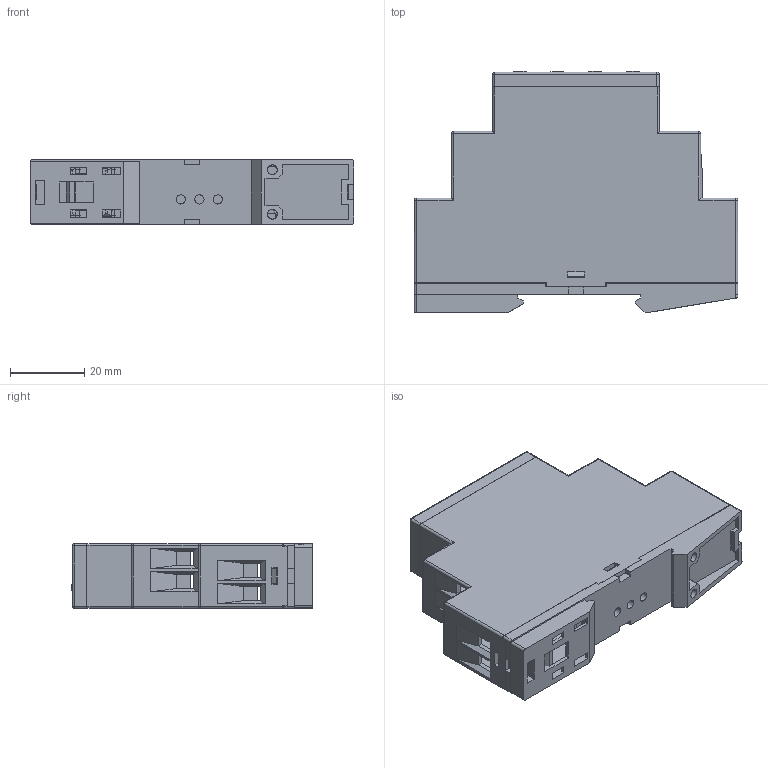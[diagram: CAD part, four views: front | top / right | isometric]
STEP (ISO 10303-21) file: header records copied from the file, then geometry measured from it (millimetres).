
FILE_DESCRIPTION(/* description */ (''),/* implementation_level */ '2;1');
FILE_NAME(/* name */ '09980718.stp',/* time_stamp */ '2025-05-23T12:10:23+02:00',/* author */ (''),/* organization */ (''),/* preprocessor_version */ 'ST-DEVELOPER v18.1',/* originating_system */ 'SIEMENS PLM Software NX 1961',/* authorisation */ '');
FILE_SCHEMA (('AUTOMOTIVE_DESIGN { 1 0 10303 214 3 1 1 1 }'));
Length unit declared in the file: millimetre
Products named in the file (1): jann44E8F4C1pcky
Bounding box: 87.4 x 65.3 x 17.5 mm (x, y, z)
Volume: 3048 mm3; surface area: 30787 mm2
Topology: 1 solids, 28 shells, 409 faces, 2514 edges, 2081 vertices
Faces by surface type: plane 299, cylinder 82, sphere 12, bspline 8, cone 5, torus 3
Full cylindrical faces by diameter (mm): 5.1 x1
Entity records: 24540 total; most frequent: CARTESIAN_POINT 5620, DIRECTION 3586, ORIENTED_EDGE 3314, EDGE_CURVE 2501, VERTEX_POINT 2081, LINE 2028, VECTOR 2028, AXIS2_PLACEMENT_3D 779
